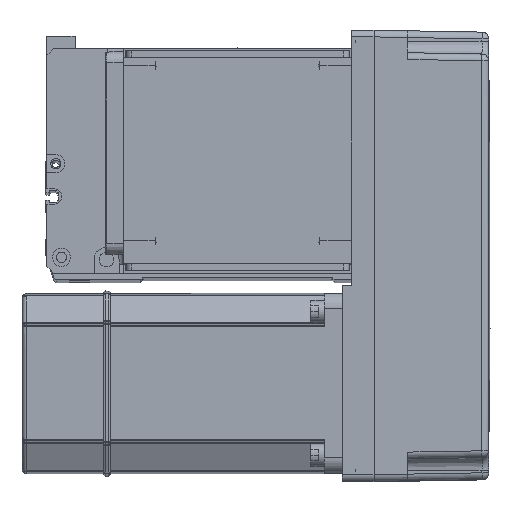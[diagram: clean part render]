
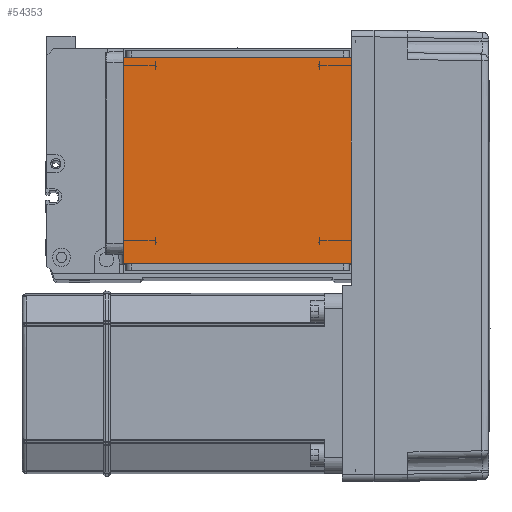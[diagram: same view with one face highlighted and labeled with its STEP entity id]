
A CAD part, top view. The second image highlights one B-rep face of the part: STEP entity #54353.
In plain terms, the highlighted planar face has unit normal (0, 0, 1).
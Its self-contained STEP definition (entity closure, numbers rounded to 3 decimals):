
#2152 = CARTESIAN_POINT ( 'NONE',  ( 50.5, 111.5, 115. ) ) ;
#2171 = DIRECTION ( 'NONE',  ( 1., 0., 0. ) ) ;
#3262 = ORIENTED_EDGE ( 'NONE', *, *, #9840, .T. ) ;
#3614 = EDGE_CURVE ( 'NONE', #7100, #43770, #24383, .T. ) ;
#5030 = VERTEX_POINT ( 'NONE', #41877 ) ;
#5793 = VECTOR ( 'NONE', #8472, 1000. ) ;
#7100 = VERTEX_POINT ( 'NONE', #36394 ) ;
#8472 = DIRECTION ( 'NONE',  ( -1., 0., 0. ) ) ;
#9840 = EDGE_CURVE ( 'NONE', #7100, #26183, #26427, .T. ) ;
#11071 = PLANE ( 'NONE',  #29842 ) ;
#12639 = VECTOR ( 'NONE', #15072, 1000. ) ;
#12795 = FACE_OUTER_BOUND ( 'NONE', #17563, .T. ) ;
#13552 = ORIENTED_EDGE ( 'NONE', *, *, #17281, .T. ) ;
#14069 = CARTESIAN_POINT ( 'NONE',  ( -50.5, 20., 115. ) ) ;
#14194 = LINE ( 'NONE', #56027, #47998 ) ;
#15072 = DIRECTION ( 'NONE',  ( 1., 0., 0. ) ) ;
#16585 = CARTESIAN_POINT ( 'NONE',  ( -50.5, 122., 115. ) ) ;
#16868 = DIRECTION ( 'NONE',  ( 0., 1., 0. ) ) ;
#17281 = EDGE_CURVE ( 'NONE', #5030, #43770, #14194, .T. ) ;
#17563 = EDGE_LOOP ( 'NONE', ( #45144, #3262, #37218, #13552 ) ) ;
#19406 = CARTESIAN_POINT ( 'NONE',  ( 0., 0., 115. ) ) ;
#24383 = LINE ( 'NONE', #49582, #12639 ) ;
#25036 = VECTOR ( 'NONE', #47793, 1000. ) ;
#26183 = VERTEX_POINT ( 'NONE', #14069 ) ;
#26427 = LINE ( 'NONE', #16585, #25036 ) ;
#29842 = AXIS2_PLACEMENT_3D ( 'NONE', #19406, #36927, #2171 ) ;
#30661 = CARTESIAN_POINT ( 'NONE',  ( -70.004, 20., 115. ) ) ;
#36394 = CARTESIAN_POINT ( 'NONE',  ( -50.5, 111.5, 115. ) ) ;
#36927 = DIRECTION ( 'NONE',  ( 0., 0., 1. ) ) ;
#37218 = ORIENTED_EDGE ( 'NONE', *, *, #54615, .F. ) ;
#41877 = CARTESIAN_POINT ( 'NONE',  ( 50.5, 20., 115. ) ) ;
#43770 = VERTEX_POINT ( 'NONE', #2152 ) ;
#45144 = ORIENTED_EDGE ( 'NONE', *, *, #3614, .F. ) ;
#47793 = DIRECTION ( 'NONE',  ( 0., -1., 0. ) ) ;
#47998 = VECTOR ( 'NONE', #16868, 1000. ) ;
#49291 = LINE ( 'NONE', #30661, #5793 ) ;
#49582 = CARTESIAN_POINT ( 'NONE',  ( -70.004, 111.5, 115. ) ) ;
#54353 = ADVANCED_FACE ( 'NONE', ( #12795 ), #11071, .T. ) ;
#54615 = EDGE_CURVE ( 'NONE', #5030, #26183, #49291, .T. ) ;
#56027 = CARTESIAN_POINT ( 'NONE',  ( 50.5, 122., 115. ) ) ;
